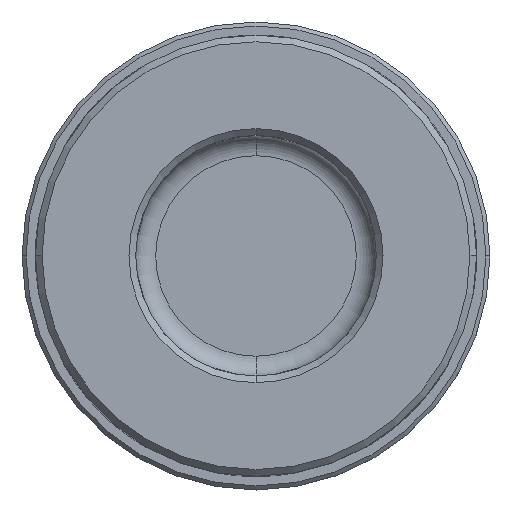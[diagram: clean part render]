
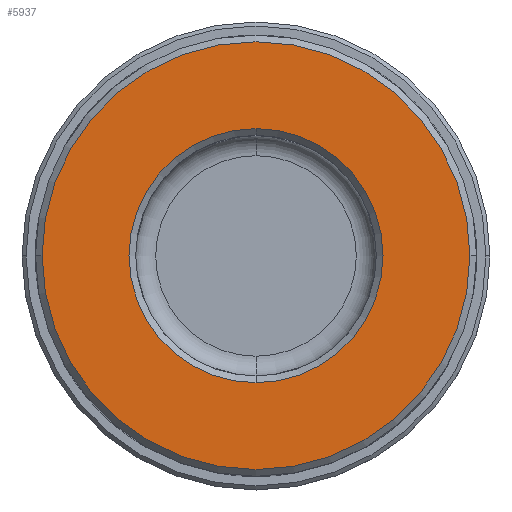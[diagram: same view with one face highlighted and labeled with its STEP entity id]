
A CAD part, top view. The second image highlights one B-rep face of the part: STEP entity #5937.
In plain terms, the highlighted planar face has unit normal (0, 0, 1).
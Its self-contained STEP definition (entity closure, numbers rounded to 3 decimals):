
#2670=CARTESIAN_POINT('',(0.,0.,16.));
#2671=DIRECTION('',(0.,0.,1.));
#2672=DIRECTION('',(1.,0.,0.));
#2673=AXIS2_PLACEMENT_3D('',#2670,#2671,#2672);
#2678=CARTESIAN_POINT('',(0.,0.,16.));
#2679=DIRECTION('',(0.,0.,1.));
#2680=DIRECTION('',(-1.,0.,0.));
#2681=AXIS2_PLACEMENT_3D('',#2678,#2679,#2680);
#2686=CARTESIAN_POINT('',(0.,0.,16.));
#2687=DIRECTION('',(0.,0.,-1.));
#2688=DIRECTION('',(0.,-1.,0.));
#2689=AXIS2_PLACEMENT_3D('',#2686,#2687,#2688);
#2694=CARTESIAN_POINT('',(0.,0.,16.));
#2695=DIRECTION('',(0.,0.,-1.));
#2696=DIRECTION('',(0.,1.,0.));
#2697=AXIS2_PLACEMENT_3D('',#2694,#2695,#2696);
#3075=CARTESIAN_POINT('',(16.,0.,16.));
#3076=CARTESIAN_POINT('',(-16.,0.,16.));
#3077=VERTEX_POINT('',#3075);
#3078=VERTEX_POINT('',#3076);
#3083=CARTESIAN_POINT('',(0.,-9.5,16.));
#3084=CARTESIAN_POINT('',(0.,9.5,16.));
#3085=VERTEX_POINT('',#3083);
#3086=VERTEX_POINT('',#3084);
#5921=CARTESIAN_POINT('',(0.,0.,16.));
#5922=DIRECTION('',(0.,0.,1.));
#5923=DIRECTION('',(1.,0.,0.));
#5924=AXIS2_PLACEMENT_3D('',#5921,#5922,#5923);
#5925=PLANE('',#5924);
#5927=ORIENTED_EDGE('',*,*,#5926,.F.);
#5929=ORIENTED_EDGE('',*,*,#5928,.F.);
#5930=EDGE_LOOP('',(#5927,#5929));
#5931=FACE_OUTER_BOUND('',#5930,.F.);
#5932=ORIENTED_EDGE('',*,*,#5911,.F.);
#5934=ORIENTED_EDGE('',*,*,#5933,.F.);
#5935=EDGE_LOOP('',(#5932,#5934));
#5936=FACE_BOUND('',#5935,.F.);
#2674=CIRCLE('',#2673,16.);
#2682=CIRCLE('',#2681,16.);
#2690=CIRCLE('',#2689,9.5);
#2698=CIRCLE('',#2697,9.5);
#5911=EDGE_CURVE('',#3085,#3086,#2690,.T.);
#5926=EDGE_CURVE('',#3077,#3078,#2674,.T.);
#5928=EDGE_CURVE('',#3078,#3077,#2682,.T.);
#5933=EDGE_CURVE('',#3086,#3085,#2698,.T.);
#5937=ADVANCED_FACE('',(#5931,#5936),#5925,.T.);
